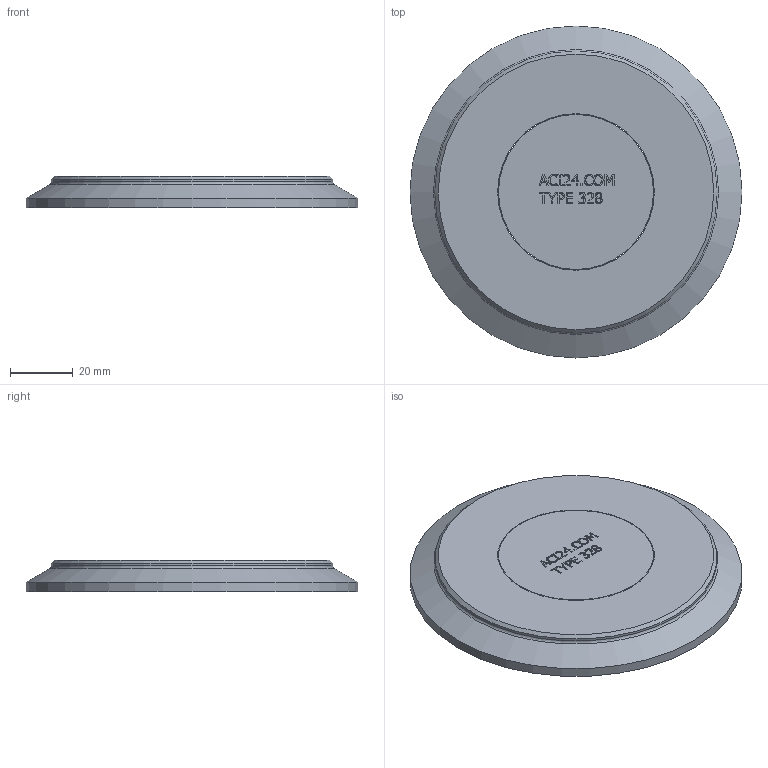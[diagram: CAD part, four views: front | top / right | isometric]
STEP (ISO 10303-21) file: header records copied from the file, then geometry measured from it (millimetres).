
FILE_DESCRIPTION(/* description */ ('ACI Typ 328 DN 80 PN 10'),/* implementation_level */ '2;1');
FILE_NAME(/* name */ 'C:\Users\willms\Desktop\ACI-328-80-10.stp',/* time_stamp */ '2020-09-01T16:13:45+02:00',/* author */ ('götz'),/* organization */ ('ACI Industriearmaturen GmbH info@aci24.com www.aci24.com'),/* preprocessor_version */ 'ST-DEVELOPER v16.1',/* originating_system */ 'Autodesk Inventor 2016',/* authorisation */ 'ACI Industriearmaturen GmbH info@aci24.com www.aci24.com');
FILE_SCHEMA (('CONFIG_CONTROL_DESIGN'));
Length unit declared in the file: centimetre
Products named in the file (1): ACI-328-80-10
Bounding box: 106 x 106 x 10 mm (x, y, z)
Volume: 75386.4 mm3; surface area: 23261.9 mm2
Topology: 2 solids, 2 shells, 270 faces, 725 edges, 482 vertices
Faces by surface type: plane 147, bspline 114, cylinder 4, cone 4, torus 1
Full cylindrical faces by diameter (mm): 49.5 x1, 50 x1, 90 x1, 106 x1
Entity records: 8972 total; most frequent: CARTESIAN_POINT 2951, ORIENTED_EDGE 1432, DIRECTION 816, EDGE_CURVE 716, VERTEX_POINT 482, LINE 474, VECTOR 474, EDGE_LOOP 304
